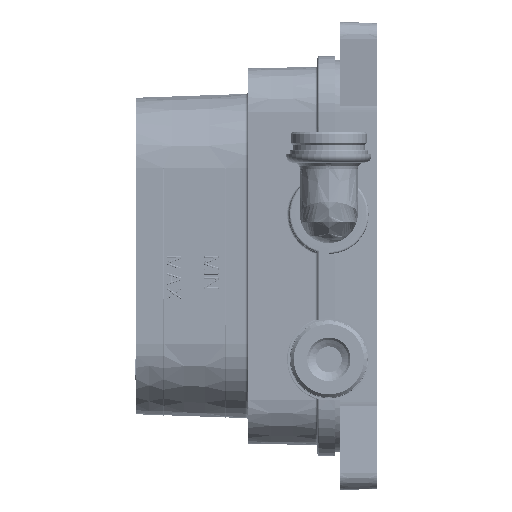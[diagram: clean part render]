
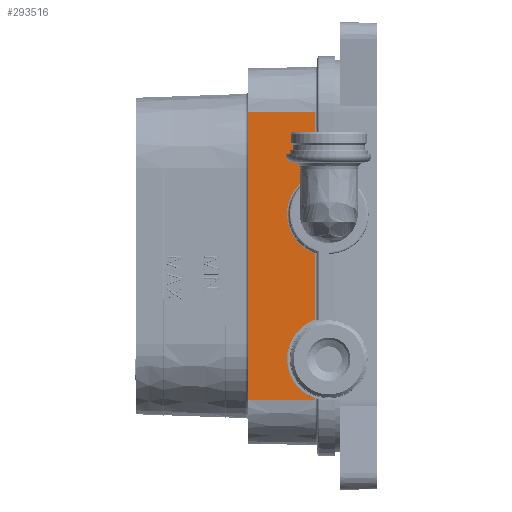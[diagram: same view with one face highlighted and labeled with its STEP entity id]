
A CAD part, left-side view. The second image highlights one B-rep face of the part: STEP entity #293516.
In plain terms, the highlighted planar face has unit normal (-1, 0.018, 0) as drawn and (0, 1, -0.017) by its records, which use the part's own axes.
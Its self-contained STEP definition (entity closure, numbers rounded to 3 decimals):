
#282401=CARTESIAN_POINT('',(-69.178,51.733,
29.517));
#282402=CARTESIAN_POINT('',(-68.762,51.711,
28.289));
#282403=CARTESIAN_POINT('',(-67.715,51.671,
25.956));
#282404=CARTESIAN_POINT('',(-65.465,51.615,
22.751));
#282405=CARTESIAN_POINT('',(-62.661,51.568,
20.056));
#282406=CARTESIAN_POINT('',(-59.389,51.531,
17.935));
#282407=CARTESIAN_POINT('',(-55.775,51.505,
16.479));
#282408=CARTESIAN_POINT('',(-51.95,51.492,
15.737));
#282409=CARTESIAN_POINT('',(-48.054,51.492,
15.736));
#282410=CARTESIAN_POINT('',(-44.228,51.505,
16.478));
#282411=CARTESIAN_POINT('',(-40.615,51.531,
17.933));
#282412=CARTESIAN_POINT('',(-37.342,51.568,
20.053));
#282413=CARTESIAN_POINT('',(-34.538,51.615,
22.748));
#282414=CARTESIAN_POINT('',(-32.286,51.671,
25.954));
#282415=CARTESIAN_POINT('',(-31.238,51.711,
28.288));
#282416=CARTESIAN_POINT('',(-30.822,51.733,
29.517));
#282418=DIRECTION('',(1.,0.,0.));
#282419=VECTOR('',#282418,0.322);
#282420=CARTESIAN_POINT('',(-69.5,51.733,29.517));
#282421=LINE('',#282420,#282419);
#282422=DIRECTION('',(1.,0.,0.));
#282423=VECTOR('',#282422,139.);
#282424=CARTESIAN_POINT('',(-69.5,51.165,-3.));
#282425=LINE('',#282424,#282423);
#282426=DIRECTION('',(0.,0.017,1.));
#282427=VECTOR('',#282426,32.522);
#282428=CARTESIAN_POINT('',(69.5,51.165,-3.));
#282429=LINE('',#282428,#282427);
#282430=DIRECTION('',(1.,0.,0.));
#282431=VECTOR('',#282430,30.072);
#282432=CARTESIAN_POINT('',(39.428,51.733,
29.517));
#282433=LINE('',#282432,#282431);
#282434=DIRECTION('',(1.,0.,0.));
#282435=VECTOR('',#282434,31.893);
#282436=CARTESIAN_POINT('',(-30.822,51.733,
29.517));
#282437=LINE('',#282436,#282435);
#282448=DIRECTION('',(0.,0.017,1.));
#282449=VECTOR('',#282448,32.522);
#282450=CARTESIAN_POINT('',(-69.5,51.165,-3.));
#282451=LINE('',#282450,#282449);
#290663=CARTESIAN_POINT('',(1.072,51.733,
29.517));
#290664=CARTESIAN_POINT('',(1.491,51.711,
28.281));
#290665=CARTESIAN_POINT('',(2.546,51.67,
25.937));
#290666=CARTESIAN_POINT('',(4.795,51.615,
22.741));
#290667=CARTESIAN_POINT('',(7.603,51.567,
20.044));
#290668=CARTESIAN_POINT('',(10.874,51.531,
17.929));
#290669=CARTESIAN_POINT('',(14.488,51.505,
16.475));
#290670=CARTESIAN_POINT('',(18.312,51.492,
15.736));
#290671=CARTESIAN_POINT('',(22.206,51.492,
15.738));
#290672=CARTESIAN_POINT('',(26.03,51.505,
16.481));
#290673=CARTESIAN_POINT('',(29.641,51.531,
17.936));
#290674=CARTESIAN_POINT('',(32.912,51.568,
20.057));
#290675=CARTESIAN_POINT('',(35.714,51.615,
22.75));
#290676=CARTESIAN_POINT('',(37.964,51.671,
25.955));
#290677=CARTESIAN_POINT('',(39.012,51.711,
28.289));
#290678=CARTESIAN_POINT('',(39.428,51.733,
29.517));
#291194=CARTESIAN_POINT('',(-69.5,51.733,29.517));
#291195=CARTESIAN_POINT('',(-69.178,51.733,
29.517));
#291196=VERTEX_POINT('',#291194);
#291197=VERTEX_POINT('',#291195);
#291222=CARTESIAN_POINT('',(39.428,51.733,
29.517));
#291223=CARTESIAN_POINT('',(69.5,51.733,29.517));
#291224=VERTEX_POINT('',#291222);
#291225=VERTEX_POINT('',#291223);
#291246=CARTESIAN_POINT('',(-30.822,51.733,
29.517));
#291247=CARTESIAN_POINT('',(1.072,51.733,
29.517));
#291248=VERTEX_POINT('',#291246);
#291249=VERTEX_POINT('',#291247);
#291254=CARTESIAN_POINT('',(-69.5,51.165,-3.));
#291255=VERTEX_POINT('',#291254);
#292516=CARTESIAN_POINT('',(69.5,51.165,-3.));
#292517=VERTEX_POINT('',#292516);
#293495=CARTESIAN_POINT('',(73.427,51.75,30.5));
#293496=DIRECTION('',(0.,1.,-0.017));
#293497=DIRECTION('',(-1.,0.,0.));
#293498=AXIS2_PLACEMENT_3D('',#293495,#293496,#293497);
#293499=PLANE('',#293498);
#293500=ORIENTED_EDGE('',*,*,#292860,.F.);
#293502=ORIENTED_EDGE('',*,*,#293501,.F.);
#293504=ORIENTED_EDGE('',*,*,#293503,.T.);
#293506=ORIENTED_EDGE('',*,*,#293505,.T.);
#293508=ORIENTED_EDGE('',*,*,#293507,.F.);
#293510=ORIENTED_EDGE('',*,*,#293509,.F.);
#293512=ORIENTED_EDGE('',*,*,#293511,.F.);
#293513=ORIENTED_EDGE('',*,*,#293488,.F.);
#293514=EDGE_LOOP('',(#293500,#293502,#293504,#293506,#293508,#293510,#293512,
#293513));
#293515=FACE_OUTER_BOUND('',#293514,.F.);
#293516=ADVANCED_FACE('',(#293515),#293499,.T.);
#282417=B_SPLINE_CURVE_WITH_KNOTS('',3,(#282401,#282402,#282403,#282404,#282405,
#282406,#282407,#282408,#282409,#282410,#282411,#282412,#282413,#282414,#282415,
#282416),.UNSPECIFIED.,.F.,.F.,(4,1,1,1,1,1,1,1,1,1,1,1,1,4),(0.,
0.077,0.154,0.231,0.308,
0.385,0.462,0.538,0.615,
0.692,0.769,0.846,0.923,1.),
.UNSPECIFIED.);
#290679=B_SPLINE_CURVE_WITH_KNOTS('',3,(#290663,#290664,#290665,#290666,#290667,
#290668,#290669,#290670,#290671,#290672,#290673,#290674,#290675,#290676,#290677,
#290678),.UNSPECIFIED.,.F.,.F.,(4,1,1,1,1,1,1,1,1,1,1,1,1,4),(0.,
0.077,0.154,0.231,0.308,
0.385,0.462,0.538,0.615,
0.692,0.769,0.846,0.923,1.),
.UNSPECIFIED.);
#292860=EDGE_CURVE('',#291196,#291197,#282421,.T.);
#293488=EDGE_CURVE('',#291197,#291248,#282417,.T.);
#293501=EDGE_CURVE('',#291255,#291196,#282451,.T.);
#293503=EDGE_CURVE('',#291255,#292517,#282425,.T.);
#293505=EDGE_CURVE('',#292517,#291225,#282429,.T.);
#293507=EDGE_CURVE('',#291224,#291225,#282433,.T.);
#293509=EDGE_CURVE('',#291249,#291224,#290679,.T.);
#293511=EDGE_CURVE('',#291248,#291249,#282437,.T.);
